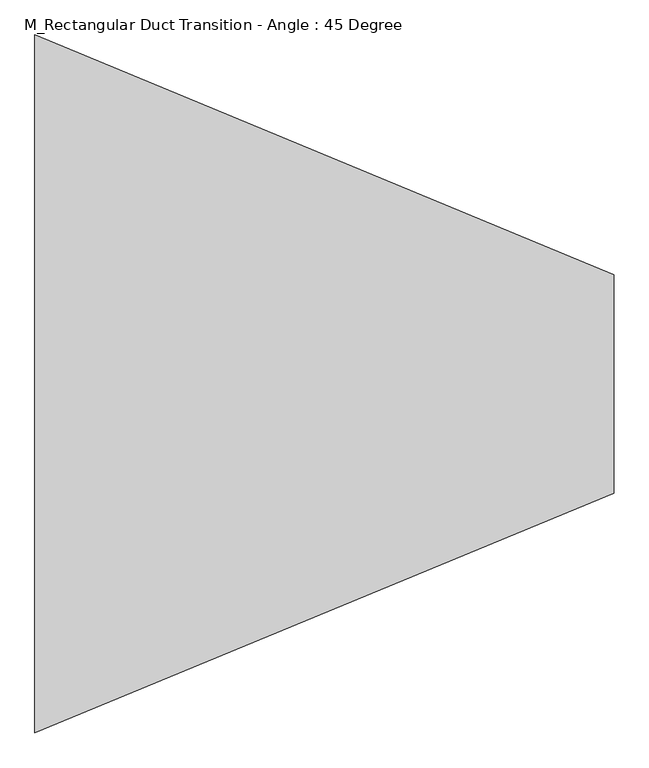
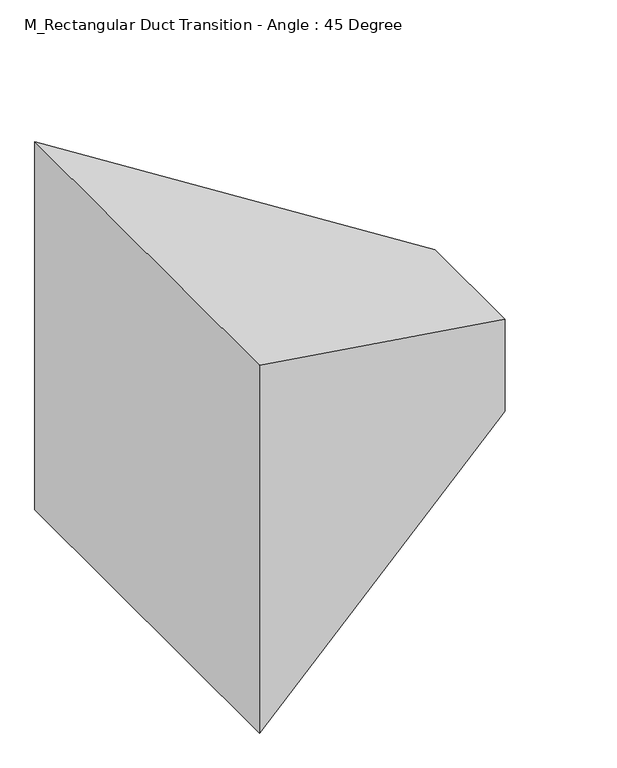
"""IFC4 building model written with IfcOpenShell, lengths in millimetres: duct fitting geometry, M_Rectangular Duct Transition - Angle : 45 Degree."""

from ifc_helpers import new_model, si_unit, origin, place, context, project, spatial, faceted_brep, source, transform, mapped, element, save


def m_rectangular_duct_transition_angle_45_degree_701ffe2e(model_context):
    return source(origin(), model_context, "Body", "Brep", [
        faceted_brep([(1991.726189, -375.0, 300.0), (1991.726189, -375.0, -300.0), (1991.726189, 375.0, -300.0), (1991.726189, 375.0, 300.0), (0.0, -1200.0, 1200.0), (0.0, 1200.0, 1200.0), (0.0, 1200.0, -1200.0), (0.0, -1200.0, -1200.0)], [[[0, 1, 2, 3]], [[4, 5, 6, 7]], [[4, 7, 1, 0]], [[7, 6, 2, 1]], [[6, 5, 3, 2]], [[5, 4, 0, 3]]]),
        faceted_brep([(1991.726189, -375.0, 300.0), (1991.726189, -375.0, -300.0), (1991.726189, 375.0, -300.0), (1991.726189, 375.0, 300.0), (0.0, -1200.0, 1200.0), (0.0, 1200.0, 1200.0), (0.0, 1200.0, -1200.0), (0.0, -1200.0, -1200.0)], [[[0, 1, 2, 3]], [[4, 5, 6, 7]], [[4, 7, 1, 0]], [[7, 6, 2, 1]], [[6, 5, 3, 2]], [[5, 4, 0, 3]]]),
        faceted_brep([(1991.726189, -375.0, 300.0), (1991.726189, -375.0, -300.0), (1991.726189, 375.0, -300.0), (1991.726189, 375.0, 300.0), (0.0, -1200.0, 1200.0), (0.0, 1200.0, 1200.0), (0.0, 1200.0, -1200.0), (0.0, -1200.0, -1200.0)], [[[0, 1, 2, 3]], [[4, 5, 6, 7]], [[4, 7, 1, 0]], [[7, 6, 2, 1]], [[6, 5, 3, 2]], [[5, 4, 0, 3]]]),
    ])


if __name__ == "__main__":
    model = new_model("IFC4")
    model_context = context("Model", 3, world=origin())
    ifc_project = project(units=[si_unit("LENGTHUNIT", "METRE", prefix="MILLI")], contexts=[model_context])
    site = spatial("IfcSite", under=ifc_project)
    building = spatial("IfcBuilding", under=site)
    placement = place(None, origin())
    m_rectangular_duct_transition_angle_45_degree_shape = m_rectangular_duct_transition_angle_45_degree_701ffe2e(model_context)
    element("IfcDuctFitting", 1, ObjectType="M_Rectangular Duct Transition - Angle : 45 Degree", at=placement, inside=building, context=model_context, shape_type="MappedRepresentation", body=[
        mapped(m_rectangular_duct_transition_angle_45_degree_shape, transform((0.0, 0.0, 0.0), x_axis=(1.0, 0.0, 0.0), y_axis=(0.0, 1.0, 0.0), z_axis=(0.0, 0.0, 1.0))),
    ])
    save(model, "model.ifc")
